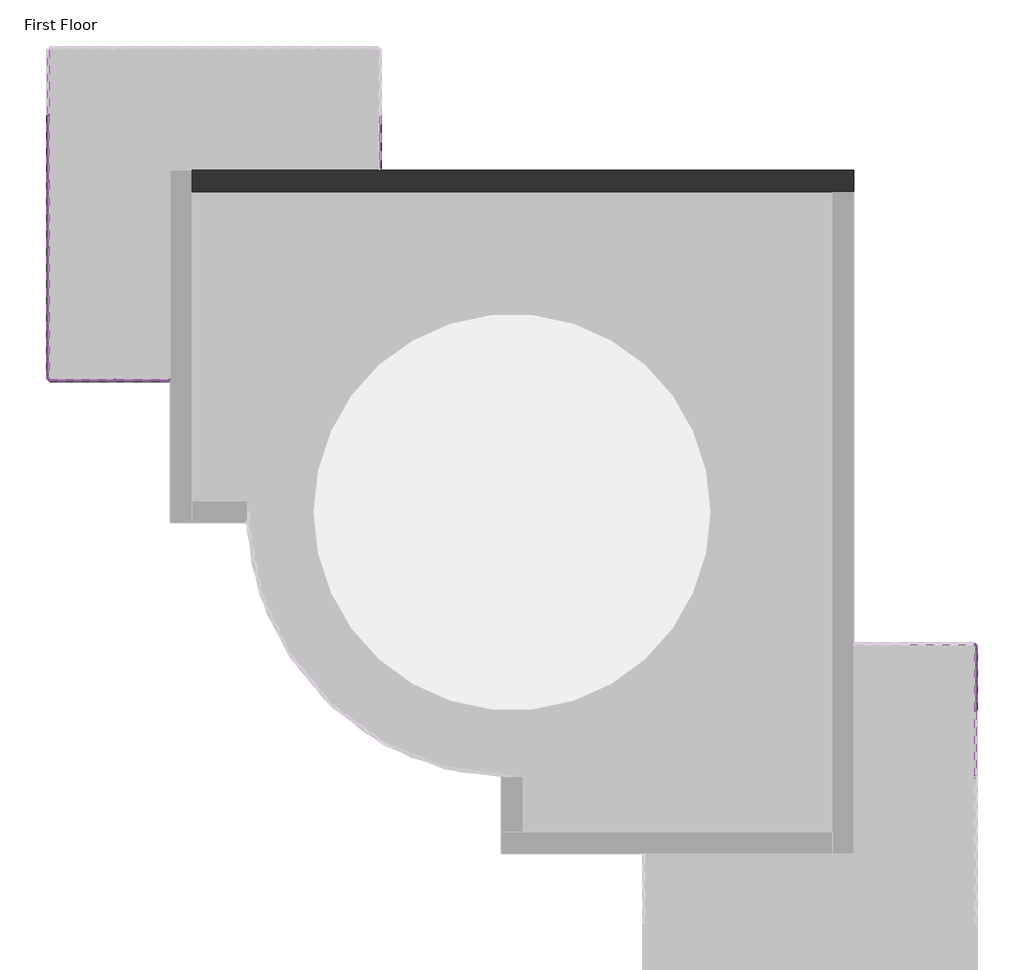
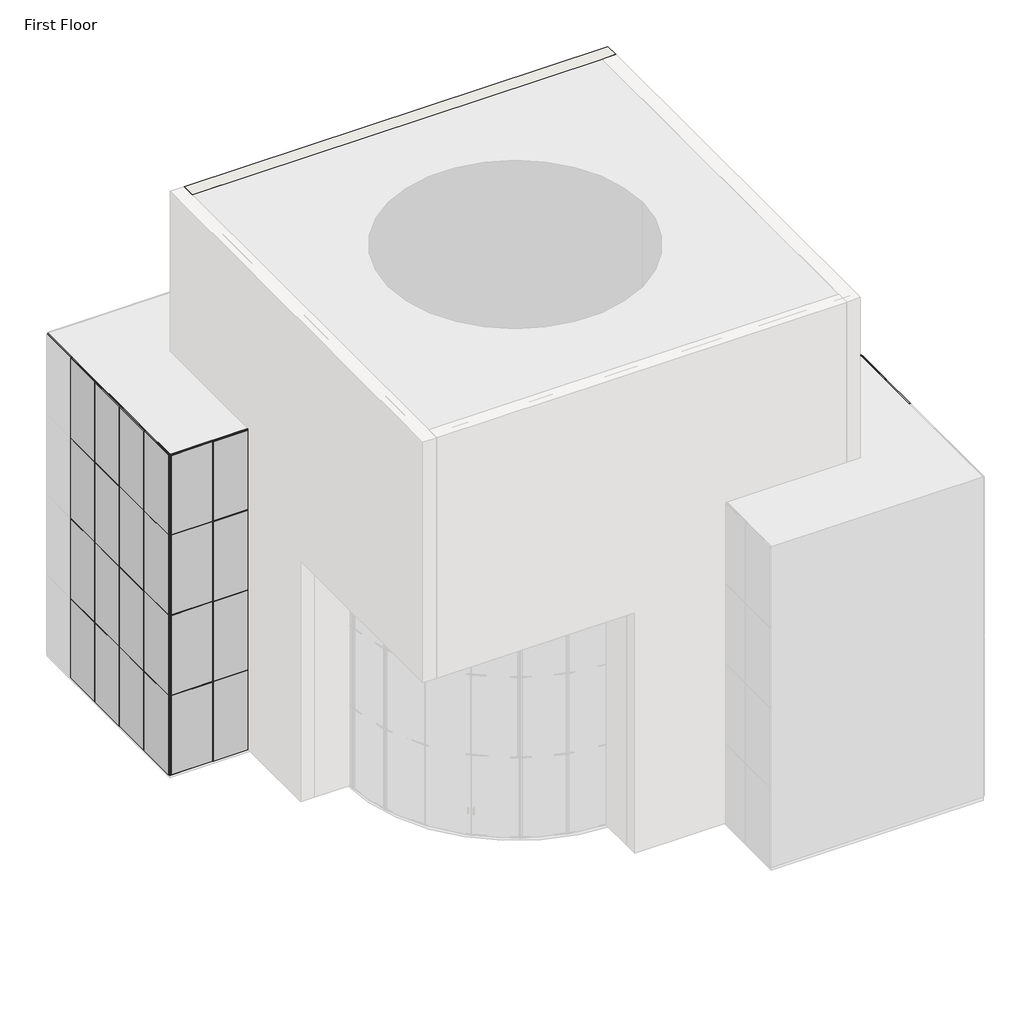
# One storey, part 3 of 4: 94 members, 32 plates, 1 wall.
"""IFC4 building model written with IfcOpenShell, lengths in millimetres."""

from ifc_helpers import new_model, si_unit, origin, place, context, project, spatial, faceted_brep, transform, mapped, element, save
from components import member_40ce1a5c, member_5e617a80, member_0d8d9af5, member_74941792, member_cbdb9076, member_7e523723, member_9fd3d903, member_6604d1e0, member_be0b070d, system_panel_glazed_9b7d687a, system_panel_glazed_3ccd4ad1, system_panel_glazed_9a901b4a, system_panel_glazed_ee91e337, system_panel_glazed_2d5e1d3d, system_panel_glazed_37964ea6, system_panel_glazed_a669fc9f, system_panel_glazed_51c864c8

model = new_model("IFC4")

# Units and contexts
model_context = context("Model", 3, world=origin())
ifc_project = project(units=[si_unit("LENGTHUNIT", "METRE", prefix="MILLI")], contexts=[model_context])

# Site, building, storey
site = spatial("IfcSite", under=ifc_project)
building = spatial("IfcBuilding", under=site)
storey = spatial("IfcBuildingStorey", under=building, Name="First Floor", Elevation=0.0)

# Members
placement = place(None, origin())
member_shape = member_40ce1a5c(model_context)
element("IfcMember", 1, ObjectType="Rectangular Mullion : 1\" Square", at=placement, inside=storey, context=model_context, shape_type="MappedRepresentation", body=[
    mapped(member_shape, transform((-10360.9806157, 2362.0139224, 6096.0), x_axis=(0.0, 0.0, 1.0), y_axis=(0.0, -1.0, 0.0), z_axis=(1.0, 0.0, 0.0))),
])
element("IfcMember", 2, ObjectType="Rectangular Mullion : 1\" Square", at=placement, inside=storey, context=model_context, shape_type="MappedRepresentation", body=[
    mapped(member_shape, transform((-10360.9806157, 2362.0139224, 9144.0), x_axis=(0.0, 0.0, 1.0), y_axis=(0.0, -1.0, 0.0), z_axis=(1.0, 0.0, 0.0))),
])
element("IfcMember", 3, ObjectType="Rectangular Mullion : 1\" Square", at=placement, inside=storey, context=model_context, shape_type="MappedRepresentation", body=[
    mapped(member_shape, transform((-10360.9806157, 2362.0139224, 3048.0), x_axis=(0.0, 0.0, 1.0), y_axis=(0.0, -1.0, 0.0), z_axis=(1.0, 0.0, 0.0))),
])
member_2_shape = member_5e617a80(model_context)
element("IfcMember", 4, ObjectType="Rectangular Mullion : 1\" Square", at=placement, inside=storey, context=model_context, shape_type="MappedRepresentation", body=[
    mapped(member_2_shape, transform((-11627.8056157, 2362.0139224, 9144.0), x_axis=(0.0, 0.0, 1.0), y_axis=(0.0, -1.0, 0.0), z_axis=(1.0, 0.0, 0.0))),
])
element("IfcMember", 5, ObjectType="Rectangular Mullion : 1\" Square", at=placement, inside=storey, context=model_context, shape_type="MappedRepresentation", body=[
    mapped(member_2_shape, transform((-11627.8056157, 2362.0139224, 6096.0), x_axis=(0.0, 0.0, 1.0), y_axis=(0.0, -1.0, 0.0), z_axis=(1.0, 0.0, 0.0))),
])
element("IfcMember", 6, ObjectType="Rectangular Mullion : 1\" Square", at=placement, inside=storey, context=model_context, shape_type="MappedRepresentation", body=[
    mapped(member_2_shape, transform((-11627.8056157, 2362.0139224, 3048.0), x_axis=(0.0, 0.0, 1.0), y_axis=(0.0, -1.0, 0.0), z_axis=(1.0, 0.0, 0.0))),
])
element("IfcMember", 7, ObjectType="Rectangular Mullion : 1\" Square", at=placement, inside=storey, context=model_context, shape_type="MappedRepresentation", body=[
    mapped(member_2_shape, transform((-13139.1056157, 8470.7139224, 3048.0), x_axis=(0.0, 0.0, 1.0), y_axis=(-1.0, 0.0, 0.0), z_axis=(0.0, -1.0, 0.0))),
])
element("IfcMember", 8, ObjectType="Rectangular Mullion : 1\" Square", at=placement, inside=storey, context=model_context, shape_type="MappedRepresentation", body=[
    mapped(member_2_shape, transform((-13139.1056157, 2387.4139224, 9144.0), x_axis=(0.0, 0.0, 1.0), y_axis=(-1.0, 0.0, 0.0), z_axis=(0.0, -1.0, 0.0))),
])
element("IfcMember", 9, ObjectType="Rectangular Mullion : 1\" Square", at=placement, inside=storey, context=model_context, shape_type="MappedRepresentation", body=[
    mapped(member_2_shape, transform((-13139.1056157, 2387.4139224, 3048.0), x_axis=(0.0, 0.0, 1.0), y_axis=(-1.0, 0.0, 0.0), z_axis=(0.0, -1.0, 0.0))),
])
element("IfcMember", 10, ObjectType="Rectangular Mullion : 1\" Square", at=placement, inside=storey, context=model_context, shape_type="MappedRepresentation", body=[
    mapped(member_2_shape, transform((-13139.1056157, 8470.7139224, 6096.0), x_axis=(0.0, 0.0, 1.0), y_axis=(-1.0, 0.0, 0.0), z_axis=(0.0, -1.0, 0.0))),
])
element("IfcMember", 11, ObjectType="Rectangular Mullion : 1\" Square", at=placement, inside=storey, context=model_context, shape_type="MappedRepresentation", body=[
    mapped(member_2_shape, transform((-13139.1056157, 2387.4139224, 6096.0), x_axis=(0.0, 0.0, 1.0), y_axis=(-1.0, 0.0, 0.0), z_axis=(0.0, -1.0, 0.0))),
])
element("IfcMember", 12, ObjectType="Rectangular Mullion : 1\" Square", at=placement, inside=storey, context=model_context, shape_type="MappedRepresentation", body=[
    mapped(member_2_shape, transform((-13139.1056157, 8470.7139224, 9144.0), x_axis=(0.0, 0.0, 1.0), y_axis=(-1.0, 0.0, 0.0), z_axis=(0.0, -1.0, 0.0))),
])
element("IfcMember", 13, ObjectType="Rectangular Mullion : 1\" Square", at=placement, inside=storey, context=model_context, shape_type="MappedRepresentation", body=[
    mapped(member_2_shape, transform((8196.8943843, -3759.3860776, 3048.0), x_axis=(0.0, 0.0, 1.0), y_axis=(1.0, 0.0, 0.0), z_axis=(0.0, 1.0, 0.0))),
])
element("IfcMember", 14, ObjectType="Rectangular Mullion : 1\" Square", at=placement, inside=storey, context=model_context, shape_type="MappedRepresentation", body=[
    mapped(member_2_shape, transform((8196.8943843, -3759.3860776, 6096.0), x_axis=(0.0, 0.0, 1.0), y_axis=(1.0, 0.0, 0.0), z_axis=(0.0, 1.0, 0.0))),
])
element("IfcMember", 15, ObjectType="Rectangular Mullion : 1\" Square", at=placement, inside=storey, context=model_context, shape_type="MappedRepresentation", body=[
    mapped(member_2_shape, transform((8196.8943843, -3759.3860776, 9144.0), x_axis=(0.0, 0.0, 1.0), y_axis=(1.0, 0.0, 0.0), z_axis=(0.0, 1.0, 0.0))),
])
member_3_shape = member_0d8d9af5(model_context)
element("IfcMember", 16, ObjectType="Rectangular Mullion : 1\" Square", at=placement, inside=storey, context=model_context, shape_type="MappedRepresentation", body=[
    mapped(member_3_shape, transform((-11602.4056157, 2362.0139224, 0.0), x_axis=(0.0, 0.0, -1.0), y_axis=(0.0, -1.0, 0.0), z_axis=(-1.0, 0.0, 0.0))),
])
member_4_shape = member_74941792(model_context)
element("IfcMember", 17, ObjectType="Rectangular Mullion : 1\" Square", at=placement, inside=storey, context=model_context, shape_type="MappedRepresentation", body=[
    mapped(member_4_shape, transform((-11627.8056157, 2362.0139224, 12192.0), x_axis=(0.0, 0.0, 1.0), y_axis=(0.0, -1.0, 0.0), z_axis=(1.0, 0.0, 0.0))),
])
element("IfcMember", 18, ObjectType="Rectangular Mullion : 1\" Square", at=placement, inside=storey, context=model_context, shape_type="MappedRepresentation", body=[
    mapped(member_4_shape, transform((-13139.1056157, 2387.4139224, 12192.0), x_axis=(0.0, 0.0, 1.0), y_axis=(-1.0, 0.0, 0.0), z_axis=(0.0, -1.0, 0.0))),
])
element("IfcMember", 19, ObjectType="Rectangular Mullion : 1\" Square", at=placement, inside=storey, context=model_context, shape_type="MappedRepresentation", body=[
    mapped(member_4_shape, transform((-13139.1056157, 8470.7139224, 12192.0), x_axis=(0.0, 0.0, 1.0), y_axis=(-1.0, 0.0, 0.0), z_axis=(0.0, -1.0, 0.0))),
])
element("IfcMember", 20, ObjectType="Rectangular Mullion : 1\" Square", at=placement, inside=storey, context=model_context, shape_type="MappedRepresentation", body=[
    mapped(member_4_shape, transform((8196.8943843, -3759.3860776, 12192.0), x_axis=(0.0, 0.0, 1.0), y_axis=(1.0, 0.0, 0.0), z_axis=(0.0, 1.0, 0.0))),
])
member_5_shape = member_cbdb9076(model_context)
element("IfcMember", 21, ObjectType="Rectangular Mullion : 1\" Square", at=placement, inside=storey, context=model_context, shape_type="MappedRepresentation", body=[
    mapped(member_5_shape, transform((-11615.1056157, 2362.0139224, 3048.0), x_axis=(1.0, 0.0, 0.0), y_axis=(0.0, -1.0, 0.0), z_axis=(0.0, 0.0, -1.0))),
])
element("IfcMember", 22, ObjectType="Rectangular Mullion : 1\" Square", at=placement, inside=storey, context=model_context, shape_type="MappedRepresentation", body=[
    mapped(member_5_shape, transform((-11615.1056157, 2362.0139224, 6096.0), x_axis=(1.0, 0.0, 0.0), y_axis=(0.0, -1.0, 0.0), z_axis=(0.0, 0.0, -1.0))),
])
element("IfcMember", 23, ObjectType="Rectangular Mullion : 1\" Square", at=placement, inside=storey, context=model_context, shape_type="MappedRepresentation", body=[
    mapped(member_5_shape, transform((-13139.1056157, 8458.0139224, 3048.0), x_axis=(0.0, -1.0, 0.0), y_axis=(-1.0, 0.0, 0.0), z_axis=(0.0, 0.0, -1.0))),
])
element("IfcMember", 24, ObjectType="Rectangular Mullion : 1\" Square", at=placement, inside=storey, context=model_context, shape_type="MappedRepresentation", body=[
    mapped(member_5_shape, transform((-13139.1056157, 8458.0139224, 6096.0), x_axis=(0.0, -1.0, 0.0), y_axis=(-1.0, 0.0, 0.0), z_axis=(0.0, 0.0, -1.0))),
])
element("IfcMember", 25, ObjectType="Rectangular Mullion : 1\" Square", at=placement, inside=storey, context=model_context, shape_type="MappedRepresentation", body=[
    mapped(member_5_shape, transform((-13139.1056157, 6934.0139224, 3048.0), x_axis=(0.0, -1.0, 0.0), y_axis=(-1.0, 0.0, 0.0), z_axis=(0.0, 0.0, -1.0))),
])
element("IfcMember", 26, ObjectType="Rectangular Mullion : 1\" Square", at=placement, inside=storey, context=model_context, shape_type="MappedRepresentation", body=[
    mapped(member_5_shape, transform((-13139.1056157, 6934.0139224, 6096.0), x_axis=(0.0, -1.0, 0.0), y_axis=(-1.0, 0.0, 0.0), z_axis=(0.0, 0.0, -1.0))),
])
element("IfcMember", 27, ObjectType="Rectangular Mullion : 1\" Square", at=placement, inside=storey, context=model_context, shape_type="MappedRepresentation", body=[
    mapped(member_5_shape, transform((-13139.1056157, 5410.0139224, 3048.0), x_axis=(0.0, -1.0, 0.0), y_axis=(-1.0, 0.0, 0.0), z_axis=(0.0, 0.0, -1.0))),
])
element("IfcMember", 28, ObjectType="Rectangular Mullion : 1\" Square", at=placement, inside=storey, context=model_context, shape_type="MappedRepresentation", body=[
    mapped(member_5_shape, transform((-13139.1056157, 5410.0139224, 6096.0), x_axis=(0.0, -1.0, 0.0), y_axis=(-1.0, 0.0, 0.0), z_axis=(0.0, 0.0, -1.0))),
])
element("IfcMember", 29, ObjectType="Rectangular Mullion : 1\" Square", at=placement, inside=storey, context=model_context, shape_type="MappedRepresentation", body=[
    mapped(member_5_shape, transform((-13139.1056157, 3886.0139224, 3048.0), x_axis=(0.0, -1.0, 0.0), y_axis=(-1.0, 0.0, 0.0), z_axis=(0.0, 0.0, -1.0))),
])
element("IfcMember", 30, ObjectType="Rectangular Mullion : 1\" Square", at=placement, inside=storey, context=model_context, shape_type="MappedRepresentation", body=[
    mapped(member_5_shape, transform((-13139.1056157, 3886.0139224, 6096.0), x_axis=(0.0, -1.0, 0.0), y_axis=(-1.0, 0.0, 0.0), z_axis=(0.0, 0.0, -1.0))),
])
element("IfcMember", 31, ObjectType="Rectangular Mullion : 1\" Square", at=placement, inside=storey, context=model_context, shape_type="MappedRepresentation", body=[
    mapped(member_5_shape, transform((8196.8943843, -5257.9860776, 3048.0), x_axis=(0.0, 1.0, 0.0), y_axis=(1.0, 0.0, 0.0), z_axis=(0.0, 0.0, -1.0))),
])
element("IfcMember", 32, ObjectType="Rectangular Mullion : 1\" Square", at=placement, inside=storey, context=model_context, shape_type="MappedRepresentation", body=[
    mapped(member_5_shape, transform((8196.8943843, -5257.9860776, 6096.0), x_axis=(0.0, 1.0, 0.0), y_axis=(1.0, 0.0, 0.0), z_axis=(0.0, 0.0, -1.0))),
])
element("IfcMember", 33, ObjectType="Rectangular Mullion : 1\" Square", at=placement, inside=storey, context=model_context, shape_type="MappedRepresentation", body=[
    mapped(member_5_shape, transform((-11615.1056157, 2362.0139224, 9144.0), x_axis=(1.0, 0.0, 0.0), y_axis=(0.0, -1.0, 0.0), z_axis=(0.0, 0.0, -1.0))),
])
element("IfcMember", 34, ObjectType="Rectangular Mullion : 1\" Square", at=placement, inside=storey, context=model_context, shape_type="MappedRepresentation", body=[
    mapped(member_5_shape, transform((-13139.1056157, 8458.0139224, 9144.0), x_axis=(0.0, -1.0, 0.0), y_axis=(-1.0, 0.0, 0.0), z_axis=(0.0, 0.0, -1.0))),
])
element("IfcMember", 35, ObjectType="Rectangular Mullion : 1\" Square", at=placement, inside=storey, context=model_context, shape_type="MappedRepresentation", body=[
    mapped(member_5_shape, transform((-13139.1056157, 6934.0139224, 9144.0), x_axis=(0.0, -1.0, 0.0), y_axis=(-1.0, 0.0, 0.0), z_axis=(0.0, 0.0, -1.0))),
])
element("IfcMember", 36, ObjectType="Rectangular Mullion : 1\" Square", at=placement, inside=storey, context=model_context, shape_type="MappedRepresentation", body=[
    mapped(member_5_shape, transform((-13139.1056157, 5410.0139224, 9144.0), x_axis=(0.0, -1.0, 0.0), y_axis=(-1.0, 0.0, 0.0), z_axis=(0.0, 0.0, -1.0))),
])
element("IfcMember", 37, ObjectType="Rectangular Mullion : 1\" Square", at=placement, inside=storey, context=model_context, shape_type="MappedRepresentation", body=[
    mapped(member_5_shape, transform((-13139.1056157, 3886.0139224, 9144.0), x_axis=(0.0, -1.0, 0.0), y_axis=(-1.0, 0.0, 0.0), z_axis=(0.0, 0.0, -1.0))),
])
element("IfcMember", 38, ObjectType="Rectangular Mullion : 1\" Square", at=placement, inside=storey, context=model_context, shape_type="MappedRepresentation", body=[
    mapped(member_5_shape, transform((8196.8943843, -5257.9860776, 9144.0), x_axis=(0.0, 1.0, 0.0), y_axis=(1.0, 0.0, 0.0), z_axis=(0.0, 0.0, -1.0))),
])
element("IfcMember", 39, ObjectType="Rectangular Mullion : 1\" Square", at=placement, inside=storey, context=model_context, shape_type="MappedRepresentation", body=[
    mapped(member_5_shape, transform((-11615.1056157, 2362.0139224, 0.0), x_axis=(1.0, 0.0, 0.0), y_axis=(0.0, -1.0, 0.0), z_axis=(0.0, 0.0, -1.0))),
])
element("IfcMember", 40, ObjectType="Rectangular Mullion : 1\" Square", at=placement, inside=storey, context=model_context, shape_type="MappedRepresentation", body=[
    mapped(member_5_shape, transform((-13139.1056157, 8458.0139224, 0.0), x_axis=(0.0, -1.0, 0.0), y_axis=(-1.0, 0.0, 0.0), z_axis=(0.0, 0.0, -1.0))),
])
element("IfcMember", 41, ObjectType="Rectangular Mullion : 1\" Square", at=placement, inside=storey, context=model_context, shape_type="MappedRepresentation", body=[
    mapped(member_5_shape, transform((-13139.1056157, 6934.0139224, 0.0), x_axis=(0.0, -1.0, 0.0), y_axis=(-1.0, 0.0, 0.0), z_axis=(0.0, 0.0, -1.0))),
])
element("IfcMember", 42, ObjectType="Rectangular Mullion : 1\" Square", at=placement, inside=storey, context=model_context, shape_type="MappedRepresentation", body=[
    mapped(member_5_shape, transform((-13139.1056157, 5410.0139224, 0.0), x_axis=(0.0, -1.0, 0.0), y_axis=(-1.0, 0.0, 0.0), z_axis=(0.0, 0.0, -1.0))),
])
element("IfcMember", 43, ObjectType="Rectangular Mullion : 1\" Square", at=placement, inside=storey, context=model_context, shape_type="MappedRepresentation", body=[
    mapped(member_5_shape, transform((-13139.1056157, 3886.0139224, 0.0), x_axis=(0.0, -1.0, 0.0), y_axis=(-1.0, 0.0, 0.0), z_axis=(0.0, 0.0, -1.0))),
])
element("IfcMember", 44, ObjectType="Rectangular Mullion : 1\" Square", at=placement, inside=storey, context=model_context, shape_type="MappedRepresentation", body=[
    mapped(member_5_shape, transform((8196.8943843, -6781.9860776, 0.0), x_axis=(0.0, 1.0, 0.0), y_axis=(1.0, 0.0, 0.0), z_axis=(0.0, 0.0, -1.0))),
])
element("IfcMember", 45, ObjectType="Rectangular Mullion : 1\" Square", at=placement, inside=storey, context=model_context, shape_type="MappedRepresentation", body=[
    mapped(member_5_shape, transform((8196.8943843, -5257.9860776, 0.0), x_axis=(0.0, 1.0, 0.0), y_axis=(1.0, 0.0, 0.0), z_axis=(0.0, 0.0, -1.0))),
])
element("IfcMember", 46, ObjectType="Rectangular Mullion : 1\" Square", at=placement, inside=storey, context=model_context, shape_type="MappedRepresentation", body=[
    mapped(member_4_shape, transform((-13113.7056157, 2362.0139224, 0.0), x_axis=(0.0, 0.0, -1.0), y_axis=(0.0, -1.0, 0.0), z_axis=(-1.0, 0.0, 0.0))),
])
element("IfcMember", 47, ObjectType="Rectangular Mullion : 1\" Square", at=placement, inside=storey, context=model_context, shape_type="MappedRepresentation", body=[
    mapped(member_4_shape, transform((-13139.1056157, 3873.3139224, 0.0), x_axis=(0.0, 0.0, -1.0), y_axis=(-1.0, 0.0, 0.0), z_axis=(0.0, 1.0, 0.0))),
])
element("IfcMember", 48, ObjectType="Rectangular Mullion : 1\" Square", at=placement, inside=storey, context=model_context, shape_type="MappedRepresentation", body=[
    mapped(member_4_shape, transform((8196.8943843, -5245.2860776, 0.0), x_axis=(0.0, 0.0, -1.0), y_axis=(1.0, 0.0, 0.0), z_axis=(0.0, -1.0, 0.0))),
])
element("IfcMember", 49, ObjectType="Rectangular Mullion : 1\" Square", at=placement, inside=storey, context=model_context, shape_type="MappedRepresentation", body=[
    mapped(member_4_shape, transform((8171.4943843, -3733.9860776, 0.0), x_axis=(0.0, 0.0, -1.0), y_axis=(0.0, 1.0, 0.0), z_axis=(1.0, 0.0, 0.0))),
])
element("IfcMember", 50, ObjectType="Rectangular Mullion : 1\" Square", at=placement, inside=storey, context=model_context, shape_type="MappedRepresentation", body=[
    mapped(member_3_shape, transform((-10360.9806157, 2362.0139224, 12192.0), x_axis=(0.0, 0.0, 1.0), y_axis=(0.0, -1.0, 0.0), z_axis=(1.0, 0.0, 0.0))),
])
member_6_shape = member_7e523723(model_context)
element("IfcMember", 51, ObjectType="Rectangular Mullion : 1\" Square", at=placement, inside=storey, context=model_context, shape_type="MappedRepresentation", body=[
    mapped(member_6_shape, transform((-13139.1056157, 2362.0139224, 12192.0), x_axis=(-1.0, 0.0, 0.0), y_axis=(0.0, -1.0, 0.0), z_axis=(0.0, 0.0, 1.0))),
])
element("IfcMember", 52, ObjectType="Rectangular Mullion : 1\" Square", at=placement, inside=storey, context=model_context, shape_type="MappedRepresentation", body=[
    mapped(member_6_shape, transform((8196.8943843, -3733.9860776, 12192.0), x_axis=(1.0, 0.0, 0.0), y_axis=(0.0, 1.0, 0.0), z_axis=(0.0, 0.0, 1.0))),
])
element("IfcMember", 53, ObjectType="Rectangular Mullion : 1\" Square", at=placement, inside=storey, context=model_context, shape_type="MappedRepresentation", body=[
    mapped(member_6_shape, transform((-5519.1056157, 7178.4889224, 12192.0), x_axis=(0.0, -1.0, 0.0), y_axis=(1.0, 0.0, 0.0), z_axis=(0.0, 0.0, 1.0))),
])
element("IfcMember", 54, ObjectType="Rectangular Mullion : 1\" Square", at=placement, inside=storey, context=model_context, shape_type="MappedRepresentation", body=[
    mapped(member_6_shape, transform((-10335.5806157, 2362.0139224, 3048.0), x_axis=(1.0, 0.0, 0.0), y_axis=(0.0, -1.0, 0.0), z_axis=(0.0, 0.0, -1.0))),
])
element("IfcMember", 55, ObjectType="Rectangular Mullion : 1\" Square", at=placement, inside=storey, context=model_context, shape_type="MappedRepresentation", body=[
    mapped(member_6_shape, transform((-10335.5806157, 2362.0139224, 6096.0), x_axis=(1.0, 0.0, 0.0), y_axis=(0.0, -1.0, 0.0), z_axis=(0.0, 0.0, -1.0))),
])
element("IfcMember", 56, ObjectType="Rectangular Mullion : 1\" Square", at=placement, inside=storey, context=model_context, shape_type="MappedRepresentation", body=[
    mapped(member_6_shape, transform((-13139.1056157, 2362.0139224, 3048.0), x_axis=(0.0, -1.0, 0.0), y_axis=(-1.0, 0.0, 0.0), z_axis=(0.0, 0.0, -1.0))),
])
element("IfcMember", 57, ObjectType="Rectangular Mullion : 1\" Square", at=placement, inside=storey, context=model_context, shape_type="MappedRepresentation", body=[
    mapped(member_6_shape, transform((-13139.1056157, 2362.0139224, 6096.0), x_axis=(0.0, -1.0, 0.0), y_axis=(-1.0, 0.0, 0.0), z_axis=(0.0, 0.0, -1.0))),
])
element("IfcMember", 58, ObjectType="Rectangular Mullion : 1\" Square", at=placement, inside=storey, context=model_context, shape_type="MappedRepresentation", body=[
    mapped(member_6_shape, transform((8196.8943843, -3733.9860776, 3048.0), x_axis=(0.0, 1.0, 0.0), y_axis=(1.0, 0.0, 0.0), z_axis=(0.0, 0.0, -1.0))),
])
element("IfcMember", 59, ObjectType="Rectangular Mullion : 1\" Square", at=placement, inside=storey, context=model_context, shape_type="MappedRepresentation", body=[
    mapped(member_6_shape, transform((8196.8943843, -3733.9860776, 6096.0), x_axis=(0.0, 1.0, 0.0), y_axis=(1.0, 0.0, 0.0), z_axis=(0.0, 0.0, -1.0))),
])
element("IfcMember", 60, ObjectType="Rectangular Mullion : 1\" Square", at=placement, inside=storey, context=model_context, shape_type="MappedRepresentation", body=[
    mapped(member_6_shape, transform((-10335.5806157, 2362.0139224, 9144.0), x_axis=(1.0, 0.0, 0.0), y_axis=(0.0, -1.0, 0.0), z_axis=(0.0, 0.0, -1.0))),
])
element("IfcMember", 61, ObjectType="Rectangular Mullion : 1\" Square", at=placement, inside=storey, context=model_context, shape_type="MappedRepresentation", body=[
    mapped(member_6_shape, transform((-13139.1056157, 2362.0139224, 9144.0), x_axis=(0.0, -1.0, 0.0), y_axis=(-1.0, 0.0, 0.0), z_axis=(0.0, 0.0, -1.0))),
])
element("IfcMember", 62, ObjectType="Rectangular Mullion : 1\" Square", at=placement, inside=storey, context=model_context, shape_type="MappedRepresentation", body=[
    mapped(member_6_shape, transform((8196.8943843, -3733.9860776, 9144.0), x_axis=(0.0, 1.0, 0.0), y_axis=(1.0, 0.0, 0.0), z_axis=(0.0, 0.0, -1.0))),
])
element("IfcMember", 63, ObjectType="Rectangular Mullion : 1\" Square", at=placement, inside=storey, context=model_context, shape_type="MappedRepresentation", body=[
    mapped(member_6_shape, transform((-13139.1056157, 2362.0139224, 3048.0), x_axis=(-1.0, 0.0, 0.0), y_axis=(0.0, -1.0, 0.0), z_axis=(0.0, 0.0, 1.0))),
])
element("IfcMember", 64, ObjectType="Rectangular Mullion : 1\" Square", at=placement, inside=storey, context=model_context, shape_type="MappedRepresentation", body=[
    mapped(member_6_shape, transform((8196.8943843, -3733.9860776, 3048.0), x_axis=(1.0, 0.0, 0.0), y_axis=(0.0, 1.0, 0.0), z_axis=(0.0, 0.0, 1.0))),
])
element("IfcMember", 65, ObjectType="Rectangular Mullion : 1\" Square", at=placement, inside=storey, context=model_context, shape_type="MappedRepresentation", body=[
    mapped(member_6_shape, transform((-5519.1056157, 7178.4889224, 3048.0), x_axis=(0.0, -1.0, 0.0), y_axis=(1.0, 0.0, 0.0), z_axis=(0.0, 0.0, 1.0))),
])
element("IfcMember", 66, ObjectType="Rectangular Mullion : 1\" Square", at=placement, inside=storey, context=model_context, shape_type="MappedRepresentation", body=[
    mapped(member_6_shape, transform((-13139.1056157, 2362.0139224, 6096.0), x_axis=(-1.0, 0.0, 0.0), y_axis=(0.0, -1.0, 0.0), z_axis=(0.0, 0.0, 1.0))),
])
element("IfcMember", 67, ObjectType="Rectangular Mullion : 1\" Square", at=placement, inside=storey, context=model_context, shape_type="MappedRepresentation", body=[
    mapped(member_6_shape, transform((-13139.1056157, 2362.0139224, 9144.0), x_axis=(-1.0, 0.0, 0.0), y_axis=(0.0, -1.0, 0.0), z_axis=(0.0, 0.0, 1.0))),
])
element("IfcMember", 68, ObjectType="Rectangular Mullion : 1\" Square", at=placement, inside=storey, context=model_context, shape_type="MappedRepresentation", body=[
    mapped(member_6_shape, transform((8196.8943843, -3733.9860776, 6096.0), x_axis=(1.0, 0.0, 0.0), y_axis=(0.0, 1.0, 0.0), z_axis=(0.0, 0.0, 1.0))),
])
element("IfcMember", 69, ObjectType="Rectangular Mullion : 1\" Square", at=placement, inside=storey, context=model_context, shape_type="MappedRepresentation", body=[
    mapped(member_6_shape, transform((8196.8943843, -3733.9860776, 9144.0), x_axis=(1.0, 0.0, 0.0), y_axis=(0.0, 1.0, 0.0), z_axis=(0.0, 0.0, 1.0))),
])
element("IfcMember", 70, ObjectType="Rectangular Mullion : 1\" Square", at=placement, inside=storey, context=model_context, shape_type="MappedRepresentation", body=[
    mapped(member_6_shape, transform((-5519.1056157, 7178.4889224, 6096.0), x_axis=(0.0, -1.0, 0.0), y_axis=(1.0, 0.0, 0.0), z_axis=(0.0, 0.0, 1.0))),
])
element("IfcMember", 71, ObjectType="Rectangular Mullion : 1\" Square", at=placement, inside=storey, context=model_context, shape_type="MappedRepresentation", body=[
    mapped(member_6_shape, transform((-5519.1056157, 7178.4889224, 9144.0), x_axis=(0.0, -1.0, 0.0), y_axis=(1.0, 0.0, 0.0), z_axis=(0.0, 0.0, 1.0))),
])
element("IfcMember", 72, ObjectType="Rectangular Mullion : 1\" Square", at=placement, inside=storey, context=model_context, shape_type="MappedRepresentation", body=[
    mapped(member_6_shape, transform((-10335.5806157, 2362.0139224, 0.0), x_axis=(1.0, 0.0, 0.0), y_axis=(0.0, -1.0, 0.0), z_axis=(0.0, 0.0, -1.0))),
])
element("IfcMember", 73, ObjectType="Rectangular Mullion : 1\" Square", at=placement, inside=storey, context=model_context, shape_type="MappedRepresentation", body=[
    mapped(member_6_shape, transform((-13139.1056157, 2362.0139224, 0.0), x_axis=(0.0, -1.0, 0.0), y_axis=(-1.0, 0.0, 0.0), z_axis=(0.0, 0.0, -1.0))),
])
element("IfcMember", 74, ObjectType="Rectangular Mullion : 1\" Square", at=placement, inside=storey, context=model_context, shape_type="MappedRepresentation", body=[
    mapped(member_6_shape, transform((8196.8943843, -3733.9860776, 0.0), x_axis=(0.0, 1.0, 0.0), y_axis=(1.0, 0.0, 0.0), z_axis=(0.0, 0.0, -1.0))),
])
member_7_shape = member_9fd3d903(model_context)
element("IfcMember", 75, ObjectType="Rectangular Mullion : 1\" Square", at=placement, inside=storey, context=model_context, shape_type="MappedRepresentation", body=[
    mapped(member_7_shape, transform((-13139.1056157, 6946.7139224, 3048.0), x_axis=(0.0, 0.0, 1.0), y_axis=(-1.0, 0.0, 0.0), z_axis=(0.0, -1.0, 0.0))),
])
element("IfcMember", 76, ObjectType="Rectangular Mullion : 1\" Square", at=placement, inside=storey, context=model_context, shape_type="MappedRepresentation", body=[
    mapped(member_7_shape, transform((-13139.1056157, 5422.7139224, 3048.0), x_axis=(0.0, 0.0, 1.0), y_axis=(-1.0, 0.0, 0.0), z_axis=(0.0, -1.0, 0.0))),
])
element("IfcMember", 77, ObjectType="Rectangular Mullion : 1\" Square", at=placement, inside=storey, context=model_context, shape_type="MappedRepresentation", body=[
    mapped(member_7_shape, transform((-13139.1056157, 3898.7139224, 3048.0), x_axis=(0.0, 0.0, 1.0), y_axis=(-1.0, 0.0, 0.0), z_axis=(0.0, -1.0, 0.0))),
])
element("IfcMember", 78, ObjectType="Rectangular Mullion : 1\" Square", at=placement, inside=storey, context=model_context, shape_type="MappedRepresentation", body=[
    mapped(member_7_shape, transform((-13139.1056157, 6946.7139224, 6096.0), x_axis=(0.0, 0.0, 1.0), y_axis=(-1.0, 0.0, 0.0), z_axis=(0.0, -1.0, 0.0))),
])
element("IfcMember", 79, ObjectType="Rectangular Mullion : 1\" Square", at=placement, inside=storey, context=model_context, shape_type="MappedRepresentation", body=[
    mapped(member_7_shape, transform((-13139.1056157, 5422.7139224, 6096.0), x_axis=(0.0, 0.0, 1.0), y_axis=(-1.0, 0.0, 0.0), z_axis=(0.0, -1.0, 0.0))),
])
element("IfcMember", 80, ObjectType="Rectangular Mullion : 1\" Square", at=placement, inside=storey, context=model_context, shape_type="MappedRepresentation", body=[
    mapped(member_7_shape, transform((-13139.1056157, 3898.7139224, 6096.0), x_axis=(0.0, 0.0, 1.0), y_axis=(-1.0, 0.0, 0.0), z_axis=(0.0, -1.0, 0.0))),
])
element("IfcMember", 81, ObjectType="Rectangular Mullion : 1\" Square", at=placement, inside=storey, context=model_context, shape_type="MappedRepresentation", body=[
    mapped(member_7_shape, transform((-13139.1056157, 6946.7139224, 9144.0), x_axis=(0.0, 0.0, 1.0), y_axis=(-1.0, 0.0, 0.0), z_axis=(0.0, -1.0, 0.0))),
])
element("IfcMember", 82, ObjectType="Rectangular Mullion : 1\" Square", at=placement, inside=storey, context=model_context, shape_type="MappedRepresentation", body=[
    mapped(member_7_shape, transform((-13139.1056157, 5422.7139224, 9144.0), x_axis=(0.0, 0.0, 1.0), y_axis=(-1.0, 0.0, 0.0), z_axis=(0.0, -1.0, 0.0))),
])
element("IfcMember", 83, ObjectType="Rectangular Mullion : 1\" Square", at=placement, inside=storey, context=model_context, shape_type="MappedRepresentation", body=[
    mapped(member_7_shape, transform((-13139.1056157, 3898.7139224, 9144.0), x_axis=(0.0, 0.0, 1.0), y_axis=(-1.0, 0.0, 0.0), z_axis=(0.0, -1.0, 0.0))),
])
element("IfcMember", 84, ObjectType="Rectangular Mullion : 1\" Square", at=placement, inside=storey, context=model_context, shape_type="MappedRepresentation", body=[
    mapped(member_7_shape, transform((8196.8943843, -5270.6860776, 3048.0), x_axis=(0.0, 0.0, 1.0), y_axis=(1.0, 0.0, 0.0), z_axis=(0.0, 1.0, 0.0))),
])
element("IfcMember", 85, ObjectType="Rectangular Mullion : 1\" Square", at=placement, inside=storey, context=model_context, shape_type="MappedRepresentation", body=[
    mapped(member_7_shape, transform((8196.8943843, -5270.6860776, 6096.0), x_axis=(0.0, 0.0, 1.0), y_axis=(1.0, 0.0, 0.0), z_axis=(0.0, 1.0, 0.0))),
])
element("IfcMember", 86, ObjectType="Rectangular Mullion : 1\" Square", at=placement, inside=storey, context=model_context, shape_type="MappedRepresentation", body=[
    mapped(member_7_shape, transform((8196.8943843, -5270.6860776, 9144.0), x_axis=(0.0, 0.0, 1.0), y_axis=(1.0, 0.0, 0.0), z_axis=(0.0, 1.0, 0.0))),
])
member_8_shape = member_6604d1e0(model_context)
element("IfcMember", 87, ObjectType="Rectangular Mullion : 1\" Square", at=placement, inside=storey, context=model_context, shape_type="MappedRepresentation", body=[
    mapped(member_8_shape, transform((-13139.1056157, 3898.7139224, 12192.0), x_axis=(0.0, 0.0, 1.0), y_axis=(-1.0, 0.0, 0.0), z_axis=(0.0, -1.0, 0.0))),
])
element("IfcMember", 88, ObjectType="Rectangular Mullion : 1\" Square", at=placement, inside=storey, context=model_context, shape_type="MappedRepresentation", body=[
    mapped(member_8_shape, transform((-13139.1056157, 6946.7139224, 12192.0), x_axis=(0.0, 0.0, 1.0), y_axis=(-1.0, 0.0, 0.0), z_axis=(0.0, -1.0, 0.0))),
])
element("IfcMember", 89, ObjectType="Rectangular Mullion : 1\" Square", at=placement, inside=storey, context=model_context, shape_type="MappedRepresentation", body=[
    mapped(member_8_shape, transform((-13139.1056157, 5422.7139224, 12192.0), x_axis=(0.0, 0.0, 1.0), y_axis=(-1.0, 0.0, 0.0), z_axis=(0.0, -1.0, 0.0))),
])
element("IfcMember", 90, ObjectType="Rectangular Mullion : 1\" Square", at=placement, inside=storey, context=model_context, shape_type="MappedRepresentation", body=[
    mapped(member_8_shape, transform((8196.8943843, -5270.6860776, 12192.0), x_axis=(0.0, 0.0, 1.0), y_axis=(1.0, 0.0, 0.0), z_axis=(0.0, 1.0, 0.0))),
])
element("IfcMember", 91, ObjectType="Rectangular Mullion : 1\" Square", at=placement, inside=storey, context=model_context, shape_type="MappedRepresentation", body=[
    mapped(member_8_shape, transform((-13139.1056157, 8445.3139224, 0.0), x_axis=(0.0, 0.0, -1.0), y_axis=(-1.0, 0.0, 0.0), z_axis=(0.0, 1.0, 0.0))),
])
element("IfcMember", 92, ObjectType="Rectangular Mullion : 1\" Square", at=placement, inside=storey, context=model_context, shape_type="MappedRepresentation", body=[
    mapped(member_8_shape, transform((-13139.1056157, 6921.3139224, 0.0), x_axis=(0.0, 0.0, -1.0), y_axis=(-1.0, 0.0, 0.0), z_axis=(0.0, 1.0, 0.0))),
])
element("IfcMember", 93, ObjectType="Rectangular Mullion : 1\" Square", at=placement, inside=storey, context=model_context, shape_type="MappedRepresentation", body=[
    mapped(member_8_shape, transform((-13139.1056157, 5397.3139224, 0.0), x_axis=(0.0, 0.0, -1.0), y_axis=(-1.0, 0.0, 0.0), z_axis=(0.0, 1.0, 0.0))),
])
member_9_shape = member_be0b070d(model_context)
element("IfcMember", 94, ObjectType="Rectangular Mullion : 1\" Square", at=placement, inside=storey, context=model_context, shape_type="MappedRepresentation", body=[
    mapped(member_9_shape, transform((-5519.1056157, 7203.8889224, 0.0), x_axis=(0.0, 0.0, -1.0), y_axis=(1.0, 0.0, 0.0), z_axis=(0.0, -1.0, 0.0))),
])

# Plates
system_panel_glazed_shape = system_panel_glazed_9b7d687a(model_context)
element("IfcPlate", 95, ObjectType="System Panel : Glazed", at=placement, inside=storey, context=model_context, shape_type="MappedRepresentation", body=[
    mapped(system_panel_glazed_shape, transform((-13139.1056157, 3130.3639224, 25.4), x_axis=(0.0, -1.0, 0.0), y_axis=(1.0, 0.0, 0.0), z_axis=(0.0, 0.0, 1.0))),
])
element("IfcPlate", 96, ObjectType="System Panel : Glazed", at=placement, inside=storey, context=model_context, shape_type="MappedRepresentation", body=[
    mapped(system_panel_glazed_shape, transform((-13139.1056157, 3130.3639224, 9156.7), x_axis=(0.0, -1.0, 0.0), y_axis=(1.0, 0.0, 0.0), z_axis=(0.0, 0.0, 1.0))),
])
element("IfcPlate", 97, ObjectType="System Panel : Glazed", at=placement, inside=storey, context=model_context, shape_type="MappedRepresentation", body=[
    mapped(system_panel_glazed_shape, transform((-12370.7556157, 2362.0139224, 25.4), x_axis=(1.0, 0.0, 0.0), y_axis=(0.0, 1.0, 0.0), z_axis=(0.0, 0.0, 1.0))),
])
element("IfcPlate", 98, ObjectType="System Panel : Glazed", at=placement, inside=storey, context=model_context, shape_type="MappedRepresentation", body=[
    mapped(system_panel_glazed_shape, transform((-12370.7556157, 2362.0139224, 9156.7), x_axis=(1.0, 0.0, 0.0), y_axis=(0.0, 1.0, 0.0), z_axis=(0.0, 0.0, 1.0))),
])
element("IfcPlate", 99, ObjectType="System Panel : Glazed", at=placement, inside=storey, context=model_context, shape_type="MappedRepresentation", body=[
    mapped(system_panel_glazed_shape, transform((8196.8943843, -4502.3360776, 25.4), x_axis=(0.0, 1.0, 0.0), y_axis=(-1.0, 0.0, 0.0), z_axis=(0.0, 0.0, 1.0))),
])
element("IfcPlate", 100, ObjectType="System Panel : Glazed", at=placement, inside=storey, context=model_context, shape_type="MappedRepresentation", body=[
    mapped(system_panel_glazed_shape, transform((8196.8943843, -4502.3360776, 9156.7), x_axis=(0.0, 1.0, 0.0), y_axis=(-1.0, 0.0, 0.0), z_axis=(0.0, 0.0, 1.0))),
])
system_panel_glazed_2_shape = system_panel_glazed_3ccd4ad1(model_context)
element("IfcPlate", 101, ObjectType="System Panel : Glazed", at=placement, inside=storey, context=model_context, shape_type="MappedRepresentation", body=[
    mapped(system_panel_glazed_2_shape, transform((-10981.6931157, 2362.0139224, 25.4), x_axis=(1.0, 0.0, 0.0), y_axis=(0.0, 1.0, 0.0), z_axis=(0.0, 0.0, 1.0))),
])
element("IfcPlate", 102, ObjectType="System Panel : Glazed", at=placement, inside=storey, context=model_context, shape_type="MappedRepresentation", body=[
    mapped(system_panel_glazed_2_shape, transform((-10981.6931157, 2362.0139224, 9156.7), x_axis=(1.0, 0.0, 0.0), y_axis=(0.0, 1.0, 0.0), z_axis=(0.0, 0.0, 1.0))),
])
system_panel_glazed_3_shape = system_panel_glazed_9a901b4a(model_context)
element("IfcPlate", 103, ObjectType="System Panel : Glazed", at=placement, inside=storey, context=model_context, shape_type="MappedRepresentation", body=[
    mapped(system_panel_glazed_3_shape, transform((-13139.1056157, 3130.3639224, 3060.7), x_axis=(0.0, -1.0, 0.0), y_axis=(1.0, 0.0, 0.0), z_axis=(0.0, 0.0, 1.0))),
])
element("IfcPlate", 104, ObjectType="System Panel : Glazed", at=placement, inside=storey, context=model_context, shape_type="MappedRepresentation", body=[
    mapped(system_panel_glazed_3_shape, transform((-13139.1056157, 3130.3639224, 6108.7), x_axis=(0.0, -1.0, 0.0), y_axis=(1.0, 0.0, 0.0), z_axis=(0.0, 0.0, 1.0))),
])
element("IfcPlate", 105, ObjectType="System Panel : Glazed", at=placement, inside=storey, context=model_context, shape_type="MappedRepresentation", body=[
    mapped(system_panel_glazed_3_shape, transform((-12370.7556157, 2362.0139224, 3060.7), x_axis=(1.0, 0.0, 0.0), y_axis=(0.0, 1.0, 0.0), z_axis=(0.0, 0.0, 1.0))),
])
element("IfcPlate", 106, ObjectType="System Panel : Glazed", at=placement, inside=storey, context=model_context, shape_type="MappedRepresentation", body=[
    mapped(system_panel_glazed_3_shape, transform((-12370.7556157, 2362.0139224, 6108.7), x_axis=(1.0, 0.0, 0.0), y_axis=(0.0, 1.0, 0.0), z_axis=(0.0, 0.0, 1.0))),
])
element("IfcPlate", 107, ObjectType="System Panel : Glazed", at=placement, inside=storey, context=model_context, shape_type="MappedRepresentation", body=[
    mapped(system_panel_glazed_3_shape, transform((8196.8943843, -4502.3360776, 3060.7), x_axis=(0.0, 1.0, 0.0), y_axis=(-1.0, 0.0, 0.0), z_axis=(0.0, 0.0, 1.0))),
])
element("IfcPlate", 108, ObjectType="System Panel : Glazed", at=placement, inside=storey, context=model_context, shape_type="MappedRepresentation", body=[
    mapped(system_panel_glazed_3_shape, transform((8196.8943843, -4502.3360776, 6108.7), x_axis=(0.0, 1.0, 0.0), y_axis=(-1.0, 0.0, 0.0), z_axis=(0.0, 0.0, 1.0))),
])
system_panel_glazed_4_shape = system_panel_glazed_ee91e337(model_context)
element("IfcPlate", 109, ObjectType="System Panel : Glazed", at=placement, inside=storey, context=model_context, shape_type="MappedRepresentation", body=[
    mapped(system_panel_glazed_4_shape, transform((-10981.6931157, 2362.0139224, 3060.7), x_axis=(1.0, 0.0, 0.0), y_axis=(0.0, 1.0, 0.0), z_axis=(0.0, 0.0, 1.0))),
])
element("IfcPlate", 110, ObjectType="System Panel : Glazed", at=placement, inside=storey, context=model_context, shape_type="MappedRepresentation", body=[
    mapped(system_panel_glazed_4_shape, transform((-10981.6931157, 2362.0139224, 6108.7), x_axis=(1.0, 0.0, 0.0), y_axis=(0.0, 1.0, 0.0), z_axis=(0.0, 0.0, 1.0))),
])
system_panel_glazed_5_shape = system_panel_glazed_2d5e1d3d(model_context)
element("IfcPlate", 111, ObjectType="System Panel : Glazed", at=placement, inside=storey, context=model_context, shape_type="MappedRepresentation", body=[
    mapped(system_panel_glazed_5_shape, transform((-13139.1056157, 7696.0139224, 25.4), x_axis=(0.0, -1.0, 0.0), y_axis=(1.0, 0.0, 0.0), z_axis=(0.0, 0.0, 1.0))),
])
element("IfcPlate", 112, ObjectType="System Panel : Glazed", at=placement, inside=storey, context=model_context, shape_type="MappedRepresentation", body=[
    mapped(system_panel_glazed_5_shape, transform((-13139.1056157, 6172.0139224, 25.4), x_axis=(0.0, -1.0, 0.0), y_axis=(1.0, 0.0, 0.0), z_axis=(0.0, 0.0, 1.0))),
])
element("IfcPlate", 113, ObjectType="System Panel : Glazed", at=placement, inside=storey, context=model_context, shape_type="MappedRepresentation", body=[
    mapped(system_panel_glazed_5_shape, transform((-13139.1056157, 4648.0139224, 25.4), x_axis=(0.0, -1.0, 0.0), y_axis=(1.0, 0.0, 0.0), z_axis=(0.0, 0.0, 1.0))),
])
element("IfcPlate", 114, ObjectType="System Panel : Glazed", at=placement, inside=storey, context=model_context, shape_type="MappedRepresentation", body=[
    mapped(system_panel_glazed_5_shape, transform((-13139.1056157, 7696.0139224, 9156.7), x_axis=(0.0, -1.0, 0.0), y_axis=(1.0, 0.0, 0.0), z_axis=(0.0, 0.0, 1.0))),
])
element("IfcPlate", 115, ObjectType="System Panel : Glazed", at=placement, inside=storey, context=model_context, shape_type="MappedRepresentation", body=[
    mapped(system_panel_glazed_5_shape, transform((-13139.1056157, 6172.0139224, 9156.7), x_axis=(0.0, -1.0, 0.0), y_axis=(1.0, 0.0, 0.0), z_axis=(0.0, 0.0, 1.0))),
])
element("IfcPlate", 116, ObjectType="System Panel : Glazed", at=placement, inside=storey, context=model_context, shape_type="MappedRepresentation", body=[
    mapped(system_panel_glazed_5_shape, transform((-13139.1056157, 4648.0139224, 9156.7), x_axis=(0.0, -1.0, 0.0), y_axis=(1.0, 0.0, 0.0), z_axis=(0.0, 0.0, 1.0))),
])
system_panel_glazed_6_shape = system_panel_glazed_37964ea6(model_context)
element("IfcPlate", 117, ObjectType="System Panel : Glazed", at=placement, inside=storey, context=model_context, shape_type="MappedRepresentation", body=[
    mapped(system_panel_glazed_6_shape, transform((-13139.1056157, 7696.0139224, 3060.7), x_axis=(0.0, -1.0, 0.0), y_axis=(1.0, 0.0, 0.0), z_axis=(0.0, 0.0, 1.0))),
])
element("IfcPlate", 118, ObjectType="System Panel : Glazed", at=placement, inside=storey, context=model_context, shape_type="MappedRepresentation", body=[
    mapped(system_panel_glazed_6_shape, transform((-13139.1056157, 6172.0139224, 3060.7), x_axis=(0.0, -1.0, 0.0), y_axis=(1.0, 0.0, 0.0), z_axis=(0.0, 0.0, 1.0))),
])
element("IfcPlate", 119, ObjectType="System Panel : Glazed", at=placement, inside=storey, context=model_context, shape_type="MappedRepresentation", body=[
    mapped(system_panel_glazed_6_shape, transform((-13139.1056157, 4648.0139224, 3060.7), x_axis=(0.0, -1.0, 0.0), y_axis=(1.0, 0.0, 0.0), z_axis=(0.0, 0.0, 1.0))),
])
element("IfcPlate", 120, ObjectType="System Panel : Glazed", at=placement, inside=storey, context=model_context, shape_type="MappedRepresentation", body=[
    mapped(system_panel_glazed_6_shape, transform((-13139.1056157, 7696.0139224, 6108.7), x_axis=(0.0, -1.0, 0.0), y_axis=(1.0, 0.0, 0.0), z_axis=(0.0, 0.0, 1.0))),
])
element("IfcPlate", 121, ObjectType="System Panel : Glazed", at=placement, inside=storey, context=model_context, shape_type="MappedRepresentation", body=[
    mapped(system_panel_glazed_6_shape, transform((-13139.1056157, 6172.0139224, 6108.7), x_axis=(0.0, -1.0, 0.0), y_axis=(1.0, 0.0, 0.0), z_axis=(0.0, 0.0, 1.0))),
])
element("IfcPlate", 122, ObjectType="System Panel : Glazed", at=placement, inside=storey, context=model_context, shape_type="MappedRepresentation", body=[
    mapped(system_panel_glazed_6_shape, transform((-13139.1056157, 4648.0139224, 6108.7), x_axis=(0.0, -1.0, 0.0), y_axis=(1.0, 0.0, 0.0), z_axis=(0.0, 0.0, 1.0))),
])
system_panel_glazed_7_shape = system_panel_glazed_a669fc9f(model_context)
element("IfcPlate", 123, ObjectType="System Panel : Glazed", at=placement, inside=storey, context=model_context, shape_type="MappedRepresentation", body=[
    mapped(system_panel_glazed_7_shape, transform((-5519.1056157, 7823.0139224, 25.4), x_axis=(0.0, 1.0, 0.0), y_axis=(-1.0, 0.0, 0.0), z_axis=(0.0, 0.0, 1.0))),
])
element("IfcPlate", 124, ObjectType="System Panel : Glazed", at=placement, inside=storey, context=model_context, shape_type="MappedRepresentation", body=[
    mapped(system_panel_glazed_7_shape, transform((-5519.1056157, 7823.0139224, 9156.7), x_axis=(0.0, 1.0, 0.0), y_axis=(-1.0, 0.0, 0.0), z_axis=(0.0, 0.0, 1.0))),
])
system_panel_glazed_8_shape = system_panel_glazed_51c864c8(model_context)
element("IfcPlate", 125, ObjectType="System Panel : Glazed", at=placement, inside=storey, context=model_context, shape_type="MappedRepresentation", body=[
    mapped(system_panel_glazed_8_shape, transform((-5519.1056157, 7823.0139224, 3060.7), x_axis=(0.0, 1.0, 0.0), y_axis=(-1.0, 0.0, 0.0), z_axis=(0.0, 0.0, 1.0))),
])
element("IfcPlate", 126, ObjectType="System Panel : Glazed", at=placement, inside=storey, context=model_context, shape_type="MappedRepresentation", body=[
    mapped(system_panel_glazed_8_shape, transform((-5519.1056157, 7823.0139224, 6108.7), x_axis=(0.0, 1.0, 0.0), y_axis=(-1.0, 0.0, 0.0), z_axis=(0.0, 0.0, 1.0))),
])

# Wall
element("IfcWall", 127, ObjectType="Exterior - Brick on CMU", at=placement, inside=storey, context=model_context, shape_type="Brep", body=[
    faceted_brep([(5393.3693843, 7178.4889224, 0.0), (-9840.2806157, 7178.4889224, 0.0), (-9840.2806157, 7178.4889224, 18288.0), (5393.3693843, 7178.4889224, 18288.0), (5393.3693843, 6683.1889224, 0.0), (5393.3693843, 6683.1889224, 18288.0), (4898.0693843, 6683.1889224, 18288.0), (-9840.2806157, 6683.1889224, 18288.0), (-9840.2806157, 6683.1889224, 0.0), (4898.0693843, 6683.1889224, 0.0)], [[[0, 1, 2, 3]], [[4, 5, 6, 7, 8, 9]], [[1, 0, 4, 9, 8]], [[3, 2, 7, 6, 5]], [[0, 3, 5, 4]], [[2, 1, 8, 7]]]),
])

save(model, "model.ifc")
